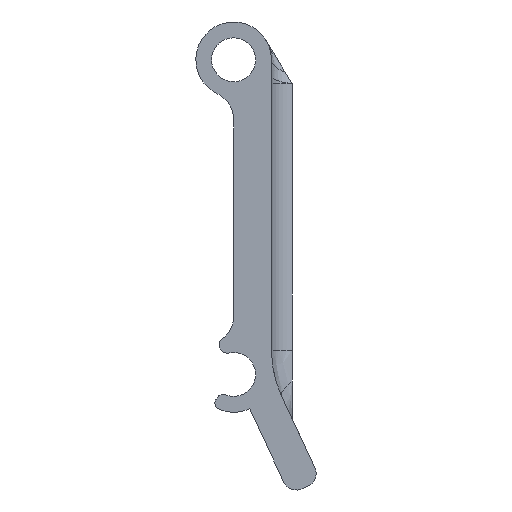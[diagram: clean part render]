
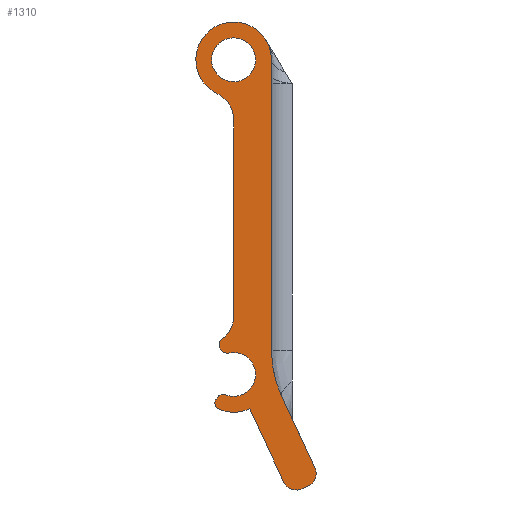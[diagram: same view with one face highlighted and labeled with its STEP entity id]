
A CAD part, left-side view. The second image highlights one B-rep face of the part: STEP entity #1310.
In plain terms, the highlighted planar face has unit normal (-1, 0, 0) as drawn and (0, -1, 0) by its records, which use the part's own axes.
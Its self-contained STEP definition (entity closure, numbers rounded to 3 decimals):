
#21=FACE_BOUND('',#187,.T.);
#30=PLANE('',#1411);
#110=FACE_OUTER_BOUND('',#186,.T.);
#186=EDGE_LOOP('',(#957,#958,#959,#960,#961,#962,#963,#964,#965,#966,#967,
#968,#969,#970,#971,#972,#973,#974,#975));
#187=EDGE_LOOP('',(#976));
#265=LINE('',#2237,#369);
#271=LINE('',#2251,#375);
#274=LINE('',#2266,#378);
#275=LINE('',#2272,#379);
#276=LINE('',#2280,#380);
#277=LINE('',#2286,#381);
#278=LINE('',#2290,#382);
#369=VECTOR('',#1576,10.);
#375=VECTOR('',#1592,10.);
#378=VECTOR('',#1609,10.);
#379=VECTOR('',#1614,10.);
#380=VECTOR('',#1621,10.);
#381=VECTOR('',#1626,10.);
#382=VECTOR('',#1629,10.);
#460=CIRCLE('',#1390,2.75);
#467=CIRCLE('',#1401,8.);
#469=CIRCLE('',#1407,1.6);
#470=CIRCLE('',#1409,2.);
#472=CIRCLE('',#1412,2.);
#473=CIRCLE('',#1413,0.5);
#474=CIRCLE('',#1414,0.5);
#475=CIRCLE('',#1415,1.6);
#476=CIRCLE('',#1416,0.5);
#477=CIRCLE('',#1417,0.5);
#478=CIRCLE('',#1418,2.75);
#479=CIRCLE('',#1419,1.);
#480=CIRCLE('',#1420,1.);
#543=VERTEX_POINT('',#2061);
#544=VERTEX_POINT('',#2063);
#558=VERTEX_POINT('',#2234);
#559=VERTEX_POINT('',#2236);
#562=VERTEX_POINT('',#2244);
#564=VERTEX_POINT('',#2255);
#565=VERTEX_POINT('',#2259);
#567=VERTEX_POINT('',#2265);
#568=VERTEX_POINT('',#2267);
#569=VERTEX_POINT('',#2269);
#570=VERTEX_POINT('',#2271);
#571=VERTEX_POINT('',#2273);
#572=VERTEX_POINT('',#2275);
#573=VERTEX_POINT('',#2277);
#574=VERTEX_POINT('',#2279);
#575=VERTEX_POINT('',#2281);
#576=VERTEX_POINT('',#2283);
#577=VERTEX_POINT('',#2285);
#578=VERTEX_POINT('',#2287);
#579=VERTEX_POINT('',#2289);
#677=EDGE_CURVE('',#544,#543,#460,.T.);
#701=EDGE_CURVE('',#558,#559,#265,.T.);
#706=EDGE_CURVE('',#558,#562,#467,.T.);
#708=EDGE_CURVE('',#544,#562,#271,.T.);
#711=EDGE_CURVE('',#564,#564,#469,.T.);
#712=EDGE_CURVE('',#543,#565,#470,.T.);
#715=EDGE_CURVE('',#565,#567,#274,.T.);
#716=EDGE_CURVE('',#568,#567,#472,.F.);
#717=EDGE_CURVE('',#568,#569,#473,.T.);
#718=EDGE_CURVE('',#570,#569,#275,.T.);
#719=EDGE_CURVE('',#570,#571,#474,.T.);
#720=EDGE_CURVE('',#572,#571,#475,.T.);
#721=EDGE_CURVE('',#572,#573,#476,.T.);
#722=EDGE_CURVE('',#573,#574,#276,.T.);
#723=EDGE_CURVE('',#574,#575,#477,.T.);
#724=EDGE_CURVE('',#575,#576,#478,.T.);
#725=EDGE_CURVE('',#577,#576,#277,.T.);
#726=EDGE_CURVE('',#577,#578,#479,.T.);
#727=EDGE_CURVE('',#579,#578,#278,.T.);
#728=EDGE_CURVE('',#579,#559,#480,.T.);
#957=ORIENTED_EDGE('',*,*,#708,.F.);
#958=ORIENTED_EDGE('',*,*,#677,.T.);
#959=ORIENTED_EDGE('',*,*,#712,.T.);
#960=ORIENTED_EDGE('',*,*,#715,.T.);
#961=ORIENTED_EDGE('',*,*,#716,.F.);
#962=ORIENTED_EDGE('',*,*,#717,.T.);
#963=ORIENTED_EDGE('',*,*,#718,.F.);
#964=ORIENTED_EDGE('',*,*,#719,.T.);
#965=ORIENTED_EDGE('',*,*,#720,.F.);
#966=ORIENTED_EDGE('',*,*,#721,.T.);
#967=ORIENTED_EDGE('',*,*,#722,.T.);
#968=ORIENTED_EDGE('',*,*,#723,.T.);
#969=ORIENTED_EDGE('',*,*,#724,.T.);
#970=ORIENTED_EDGE('',*,*,#725,.F.);
#971=ORIENTED_EDGE('',*,*,#726,.T.);
#972=ORIENTED_EDGE('',*,*,#727,.F.);
#973=ORIENTED_EDGE('',*,*,#728,.T.);
#974=ORIENTED_EDGE('',*,*,#701,.F.);
#975=ORIENTED_EDGE('',*,*,#706,.T.);
#976=ORIENTED_EDGE('',*,*,#711,.T.);
#1310=ADVANCED_FACE('',(#110,#21),#30,.T.);
#1390=AXIS2_PLACEMENT_3D('',#2064,#1544,#1545);
#1401=AXIS2_PLACEMENT_3D('',#2246,#1583,#1584);
#1407=AXIS2_PLACEMENT_3D('',#2257,#1598,#1599);
#1409=AXIS2_PLACEMENT_3D('',#2260,#1602,#1603);
#1411=AXIS2_PLACEMENT_3D('',#2264,#1607,#1608);
#1412=AXIS2_PLACEMENT_3D('',#2268,#1610,#1611);
#1413=AXIS2_PLACEMENT_3D('',#2270,#1612,#1613);
#1414=AXIS2_PLACEMENT_3D('',#2274,#1615,#1616);
#1415=AXIS2_PLACEMENT_3D('',#2276,#1617,#1618);
#1416=AXIS2_PLACEMENT_3D('',#2278,#1619,#1620);
#1417=AXIS2_PLACEMENT_3D('',#2282,#1622,#1623);
#1418=AXIS2_PLACEMENT_3D('',#2284,#1624,#1625);
#1419=AXIS2_PLACEMENT_3D('',#2288,#1627,#1628);
#1420=AXIS2_PLACEMENT_3D('',#2291,#1630,#1631);
#1544=DIRECTION('center_axis',(0.,-1.,0.));
#1545=DIRECTION('ref_axis',(1.,0.,0.));
#1576=DIRECTION('',(-0.423,0.,0.906));
#1583=DIRECTION('center_axis',(0.,1.,0.));
#1584=DIRECTION('ref_axis',(0.976,0.,0.216));
#1592=DIRECTION('',(0.,0.,1.));
#1598=DIRECTION('center_axis',(0.,1.,0.));
#1599=DIRECTION('ref_axis',(1.,0.,0.));
#1602=DIRECTION('center_axis',(0.,1.,0.));
#1603=DIRECTION('ref_axis',(-0.843,0.,-0.538));
#1607=DIRECTION('center_axis',(0.,-1.,0.));
#1608=DIRECTION('ref_axis',(1.,0.,0.));
#1609=DIRECTION('',(0.,0.,1.));
#1610=DIRECTION('center_axis',(0.,1.,0.));
#1611=DIRECTION('ref_axis',(1.,0.,0.));
#1612=DIRECTION('center_axis',(0.,-1.,0.));
#1613=DIRECTION('ref_axis',(0.911,0.,-0.413));
#1614=DIRECTION('',(0.454,0.,-0.891));
#1615=DIRECTION('center_axis',(0.,-1.,0.));
#1616=DIRECTION('ref_axis',(0.421,0.,0.907));
#1617=DIRECTION('center_axis',(0.,-1.,0.));
#1618=DIRECTION('ref_axis',(1.,0.,0.));
#1619=DIRECTION('center_axis',(0.,-1.,0.));
#1620=DIRECTION('ref_axis',(0.284,0.,-0.959));
#1621=DIRECTION('',(0.579,0.,0.815));
#1622=DIRECTION('center_axis',(0.,-1.,0.));
#1623=DIRECTION('ref_axis',(0.961,0.,0.276));
#1624=DIRECTION('center_axis',(0.,-1.,0.));
#1625=DIRECTION('ref_axis',(1.,0.,0.));
#1626=DIRECTION('',(0.423,0.,-0.906));
#1627=DIRECTION('center_axis',(0.,-1.,0.));
#1628=DIRECTION('ref_axis',(0.342,0.,0.94));
#1629=DIRECTION('',(0.906,0.,0.423));
#1630=DIRECTION('center_axis',(0.,-1.,0.));
#1631=DIRECTION('ref_axis',(-0.94,0.,0.342));
#2061=CARTESIAN_POINT('',(-37.442,2.5,4.494));
#2063=CARTESIAN_POINT('',(-41.35,2.5,2.));
#2064=CARTESIAN_POINT('Origin',(-38.6,2.5,2.));
#2234=CARTESIAN_POINT('',(-42.1,2.5,26.507));
#2236=CARTESIAN_POINT('',(-44.512,2.5,31.681));
#2237=CARTESIAN_POINT('',(-41.35,2.5,24.9));
#2244=CARTESIAN_POINT('',(-41.35,2.5,23.126));
#2246=CARTESIAN_POINT('Origin',(-49.35,2.5,23.126));
#2251=CARTESIAN_POINT('',(-41.35,2.5,8.9));
#2255=CARTESIAN_POINT('',(-40.2,2.5,2.));
#2257=CARTESIAN_POINT('Origin',(-38.6,2.5,2.));
#2259=CARTESIAN_POINT('',(-38.6,2.5,6.308));
#2260=CARTESIAN_POINT('Origin',(-36.6,2.5,6.308));
#2264=CARTESIAN_POINT('Origin',(-40.392,2.5,19.895));
#2265=CARTESIAN_POINT('',(-38.6,2.5,20.681));
#2266=CARTESIAN_POINT('',(-38.6,2.5,8.9));
#2267=CARTESIAN_POINT('',(-37.759,2.5,22.311));
#2268=CARTESIAN_POINT('Origin',(-36.6,2.5,20.681));
#2269=CARTESIAN_POINT('',(-37.604,2.5,22.946));
#2270=CARTESIAN_POINT('Origin',(-38.049,2.5,22.719));
#2271=CARTESIAN_POINT('',(-37.674,2.5,23.083));
#2272=CARTESIAN_POINT('',(-38.6,2.5,24.9));
#2273=CARTESIAN_POINT('',(-38.233,2.5,23.343));
#2274=CARTESIAN_POINT('Origin',(-38.119,2.5,22.856));
#2275=CARTESIAN_POINT('',(-38.01,2.5,26.387));
#2276=CARTESIAN_POINT('Origin',(-38.6,2.5,24.9));
#2277=CARTESIAN_POINT('',(-37.418,2.5,26.562));
#2278=CARTESIAN_POINT('Origin',(-37.826,2.5,26.852));
#2279=CARTESIAN_POINT('',(-37.329,2.5,26.688));
#2280=CARTESIAN_POINT('',(-38.6,2.5,24.9));
#2281=CARTESIAN_POINT('',(-37.545,2.5,27.439));
#2282=CARTESIAN_POINT('Origin',(-37.737,2.5,26.978));
#2283=CARTESIAN_POINT('',(-39.762,2.5,27.392));
#2284=CARTESIAN_POINT('Origin',(-38.6,2.5,24.9));
#2285=CARTESIAN_POINT('',(-42.253,2.5,32.734));
#2286=CARTESIAN_POINT('',(-42.676,2.5,33.64));
#2287=CARTESIAN_POINT('',(-43.582,2.5,33.218));
#2288=CARTESIAN_POINT('Origin',(-43.159,2.5,32.311));
#2289=CARTESIAN_POINT('',(-44.028,2.5,33.01));
#2290=CARTESIAN_POINT('',(-44.935,2.5,32.587));
#2291=CARTESIAN_POINT('Origin',(-43.606,2.5,32.103));
